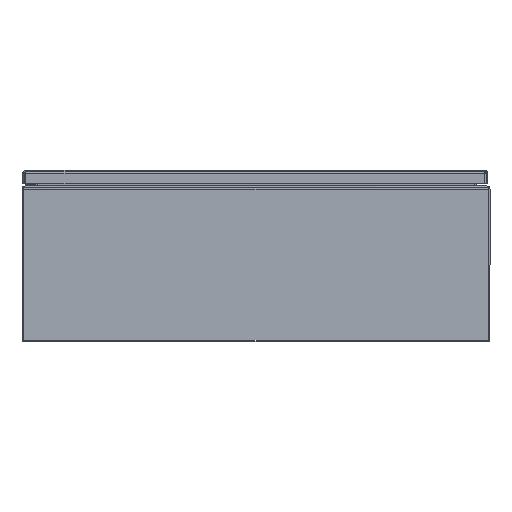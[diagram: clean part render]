
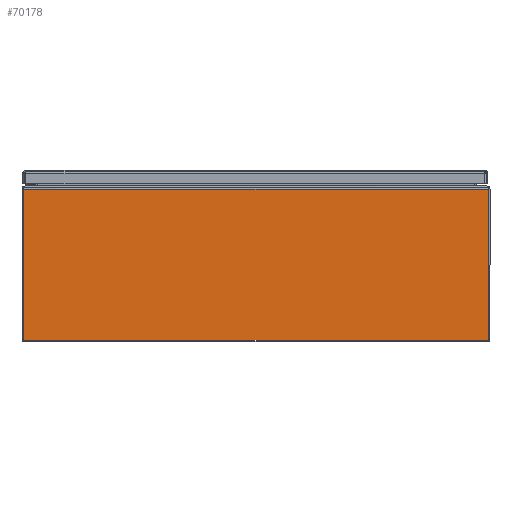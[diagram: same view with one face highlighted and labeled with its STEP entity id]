
A CAD part, front view. The second image highlights one B-rep face of the part: STEP entity #70178.
In plain terms, the highlighted planar face has unit normal (0, -1, 0).
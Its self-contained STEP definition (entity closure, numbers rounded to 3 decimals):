
#3517 = CARTESIAN_POINT ( 'NONE',  ( 11.921, 0., 7.838 ) ) ;
#4021 = CARTESIAN_POINT ( 'NONE',  ( -11.921, 0., 7.838 ) ) ;
#4472 = DIRECTION ( 'NONE',  ( 0., 0., -1. ) ) ;
#4515 = CARTESIAN_POINT ( 'NONE',  ( 11.921, 0., 0.08 ) ) ;
#4639 = CARTESIAN_POINT ( 'NONE',  ( 11.921, 0., 0.08 ) ) ;
#4640 = CARTESIAN_POINT ( 'NONE',  ( -11.921, 0., 0.08 ) ) ;
#5724 = DIRECTION ( 'NONE',  ( 0., 0., -1. ) ) ;
#5746 = CARTESIAN_POINT ( 'NONE',  ( -11.921, 0., 8.569 ) ) ;
#5823 = DIRECTION ( 'NONE',  ( -1., 0., 0. ) ) ;
#5825 = CARTESIAN_POINT ( 'NONE',  ( 12., 0., 0.08 ) ) ;
#5840 = DIRECTION ( 'NONE',  ( -1., 0., 0. ) ) ;
#5841 = CARTESIAN_POINT ( 'NONE',  ( 12., 0., 7.838 ) ) ;
#7137 = ORIENTED_EDGE ( 'NONE', *, *, #17023, .F. ) ;
#7140 = ORIENTED_EDGE ( 'NONE', *, *, #17021, .F. ) ;
#7142 = ORIENTED_EDGE ( 'NONE', *, *, #16894, .T. ) ;
#7144 = ORIENTED_EDGE ( 'NONE', *, *, #16941, .T. ) ;
#7241 = EDGE_LOOP ( 'NONE', ( #7137, #7140, #7142, #7144 ) ) ;
#16894 = EDGE_CURVE ( 'NONE', #36702, #36324, #61037, .T. ) ;
#16941 = EDGE_CURVE ( 'NONE', #36324, #32268, #61096, .T. ) ;
#17021 = EDGE_CURVE ( 'NONE', #36702, #32269, #61305, .T. ) ;
#17023 = EDGE_CURVE ( 'NONE', #32269, #32268, #61365, .T. ) ;
#32268 = VERTEX_POINT ( 'NONE', #4640 ) ;
#32269 = VERTEX_POINT ( 'NONE', #4639 ) ;
#36324 = VERTEX_POINT ( 'NONE', #4021 ) ;
#36702 = VERTEX_POINT ( 'NONE', #3517 ) ;
#46741 = AXIS2_PLACEMENT_3D ( 'NONE', #57990, #57995, #57996 ) ;
#57990 = CARTESIAN_POINT ( 'NONE',  ( 12., 0., 0.08 ) ) ;
#57992 = PLANE ( 'NONE',  #46741 ) ;
#57995 = DIRECTION ( 'NONE',  ( 0., -1., 0. ) ) ;
#57996 = DIRECTION ( 'NONE',  ( 0., 0., -1. ) ) ;
#58900 = FACE_OUTER_BOUND ( 'NONE', #7241, .T. ) ;
#61037 = LINE ( 'NONE', #5841, #61038 ) ;
#61038 = VECTOR ( 'NONE', #5840, 39.37 ) ;
#61087 = VECTOR ( 'NONE', #5724, 39.37 ) ;
#61096 = LINE ( 'NONE', #5746, #61087 ) ;
#61305 = LINE ( 'NONE', #4515, #61357 ) ;
#61357 = VECTOR ( 'NONE', #4472, 39.37 ) ;
#61365 = LINE ( 'NONE', #5825, #61367 ) ;
#61367 = VECTOR ( 'NONE', #5823, 39.37 ) ;
#70178 = ADVANCED_FACE ( 'NONE', ( #58900 ), #57992, .T. ) ;
